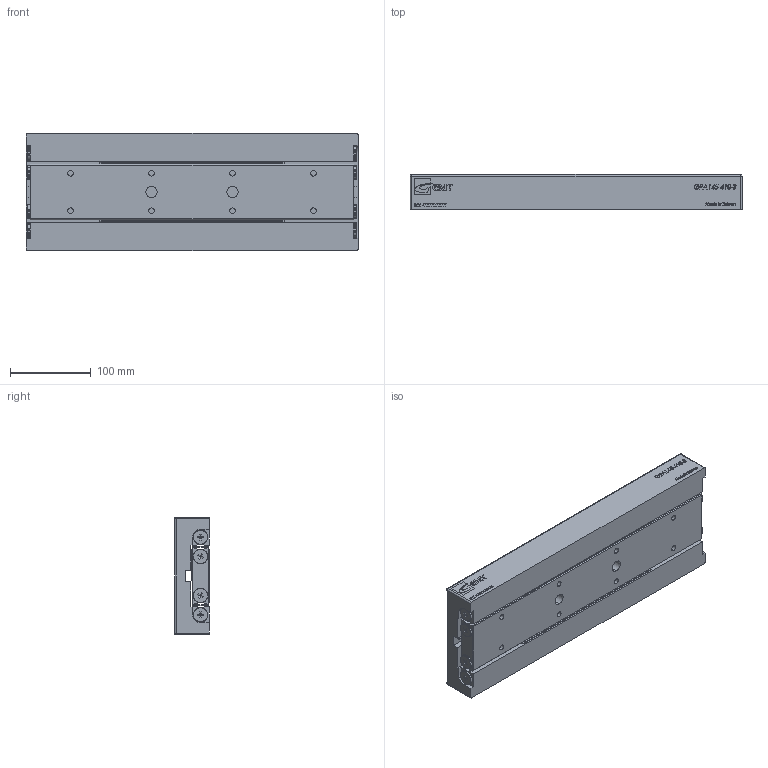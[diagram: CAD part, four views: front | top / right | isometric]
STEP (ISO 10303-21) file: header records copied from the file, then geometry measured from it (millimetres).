
FILE_DESCRIPTION (( 'STEP AP203' ), '1' );
FILE_NAME ('GRA145-410-S.STEP', '2013-12-17T05:36:17', ( '' ), ( '' ), 'SwSTEP 2.0', 'SolidWorks 2013', '' );
FILE_SCHEMA (( 'CONFIG_CONTROL_DESIGN' ));
Length unit declared in the file: millimetre
Products named in the file (1): GRA145-410-S
Bounding box: 410 x 43 x 145 mm (x, y, z)
Surface area: 291360.2 mm2 (no closed solid volume)
Topology: 0 solids, 63 shells, 365 faces, 2124 edges, 1813 vertices
Faces by surface type: plane 237, cylinder 64, torus 32, cone 26, sphere 4, bspline 2
Entity records: 24370 total; most frequent: CARTESIAN_POINT 8671, ORIENTED_EDGE 2874, DIRECTION 2815, EDGE_CURVE 2110, VERTEX_POINT 1813, VECTOR 1377, LINE 1377, AXIS2_PLACEMENT_3D 719
